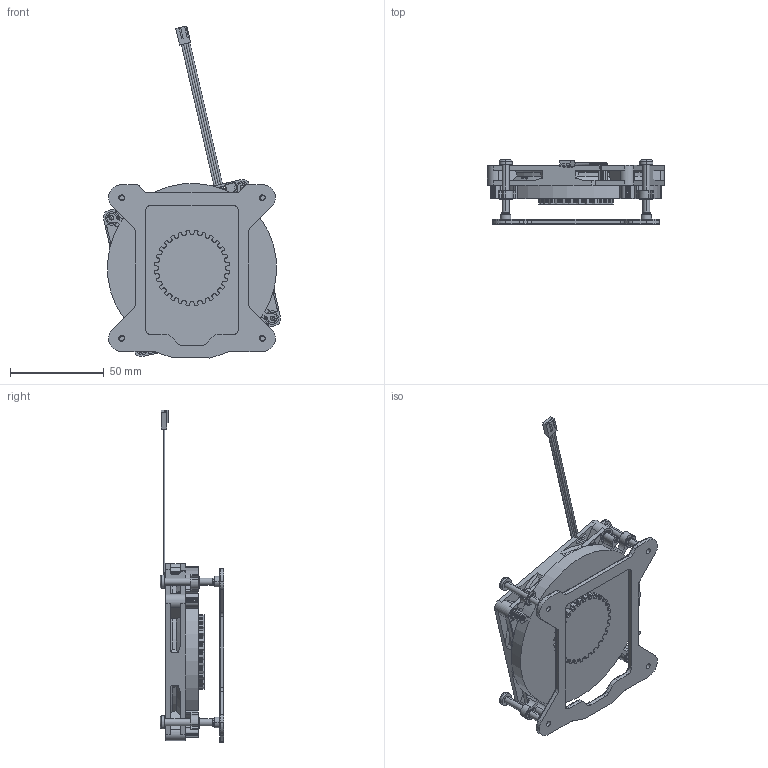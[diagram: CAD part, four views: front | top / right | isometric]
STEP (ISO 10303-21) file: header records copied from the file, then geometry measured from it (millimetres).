
FILE_DESCRIPTION((''),'2;1');
FILE_NAME('RG3119-20-002_ME_ASM','2022-11-02T',('User'),(''),'PRO/ENGINEER BY PARAMETRIC TECHNOLOGY CORPORATION, 2017170','PRO/ENGINEER BY PARAMETRIC TECHNOLOGY CORPORATION, 2017170','');
FILE_SCHEMA(('CONFIG_CONTROL_DESIGN'));
Length unit declared in the file: millimetre
Products named in the file (18): D90X10_AL_SINK__2; D90_10H_AL_ASSY_ASM_1_ASM; DEAKTOP_SCREW_D7_30_8L_1; E-RING_1; DESKTOP_SCREW_ASSY_ASM_1_ASM; DESKTOP_D90_10H_AL_ASSY_ASM_1_ASM; PRT0002_1; 8010_2; R128010BUAF325AR_1_ASM_2_ASM; R128010BUAF325AR_ASM_1_ASM; FAN_SCREW_T3X16_6_1; LABEL_R24_1_1; R128010BUAF325AR_10H_ASSY_ASM_1_ASM; 850-BP1156_1; MYLER_1; 850-BP1156_ASSY__ASM_1_ASM; RG3119_20_ASM_1_ASM; RG3119-20-002_ME_ASM
Assembly tree (23 placements, depth 6):
  RG3119-20-002_ME_ASM
    RG3119_20_ASM_1_ASM
      DESKTOP_D90_10H_AL_ASSY_ASM_1_ASM
        D90_10H_AL_ASSY_ASM_1_ASM
          D90X10_AL_SINK__2
        DESKTOP_SCREW_ASSY_ASM_1_ASM  x4
          DEAKTOP_SCREW_D7_30_8L_1
          E-RING_1
      R128010BUAF325AR_10H_ASSY_ASM_1_ASM
        R128010BUAF325AR_ASM_1_ASM
          R128010BUAF325AR_1_ASM_2_ASM
            PRT0002_1
            8010_2
        FAN_SCREW_T3X16_6_1  x4
        LABEL_R24_1_1
      850-BP1156_ASSY__ASM_1_ASM
        850-BP1156_1
        MYLER_1
Bounding box: 94.34 x 34.1 x 176.94 mm (x, y, z)
Volume: 95222 mm3; surface area: 60815.5 mm2
Topology: 18 solids, 18 shells, 3689 faces, 10248 edges, 6665 vertices
Faces by surface type: plane 1969, cylinder 726, bspline 715, extrusion 113, cone 111, torus 47, sphere 8
Entity records: 87178 total; most frequent: CARTESIAN_POINT 25692, ORIENTED_EDGE 13498, DIRECTION 11735, EDGE_CURVE 6749, VECTOR 4531, VERTEX_POINT 4484, LINE 4421, AXIS2_PLACEMENT_3D 3602
